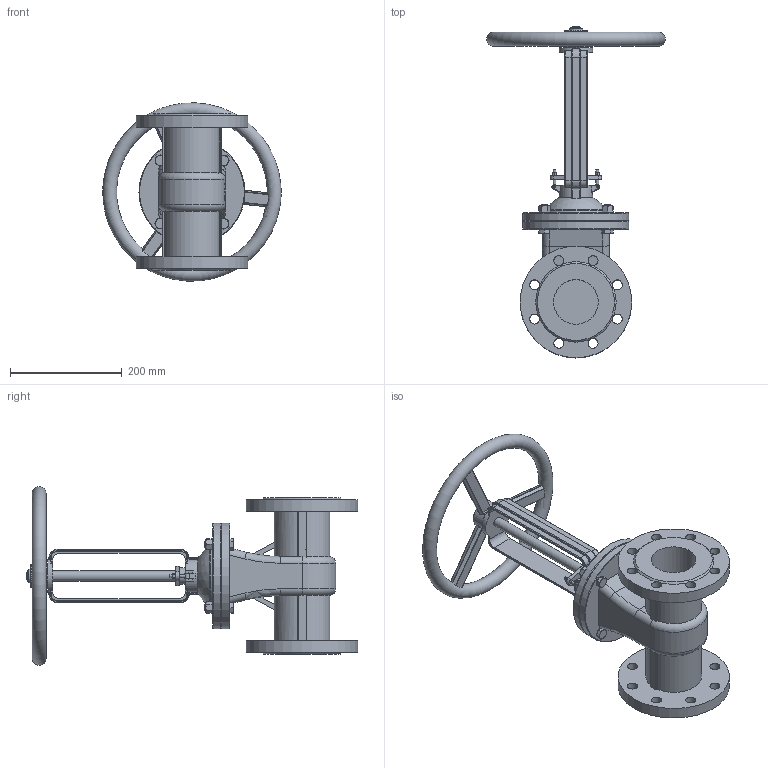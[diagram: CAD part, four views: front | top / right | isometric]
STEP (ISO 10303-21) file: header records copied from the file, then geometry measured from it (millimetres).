
FILE_DESCRIPTION(('STEP AP242'), '1');
FILE_NAME('GVWR3131M-2W-F-S Çàäâèæêà êëèíîâàÿ ñ âûäâèæíûì øòîêîì DN.ru Äó80 Ðó40', '2026-05-30T17:06:11', ('R2D2'), (''), 'C3D Converter', 'C3D Toolkit', '');
FILE_SCHEMA(('AP242_MANAGED_MODEL_BASED_3D_ENGINEERING_MIM_LF { 1 0 10303 442 1 1 4 }'));
Length unit declared in the file: millimetre
Products named in the file (1): GVWR3131M-2W-F-S
Bounding box: 319.82 x 595 x 319.65 mm (x, y, z)
Volume: 5104176.6 mm3; surface area: 611724 mm2
Topology: 1 solids, 1 shells, 867 faces, 2250 edges, 1405 vertices
Faces by surface type: plane 358, cylinder 181, cone 109, extrusion 100, torus 59, bspline 59, sphere 1
Full cylindrical faces by diameter (mm): 3 x3, 5 x4, 8 x2, 12 x8, 18 x18, 20 x1, 25 x1, 30 x1, 40 x2, 50 x1, 60 x1, 80 x2, 110 x2, 190 x2, 200 x2
Entity records: 50664 total; most frequent: CARTESIAN_POINT 23829, ORIENTED_EDGE 4346, DIRECTION 3555, EDGE_CURVE 2173, VERTEX_POINT 1400, AXIS2_PLACEMENT_3D 1297, EDGE_LOOP 1029, VECTOR 961
